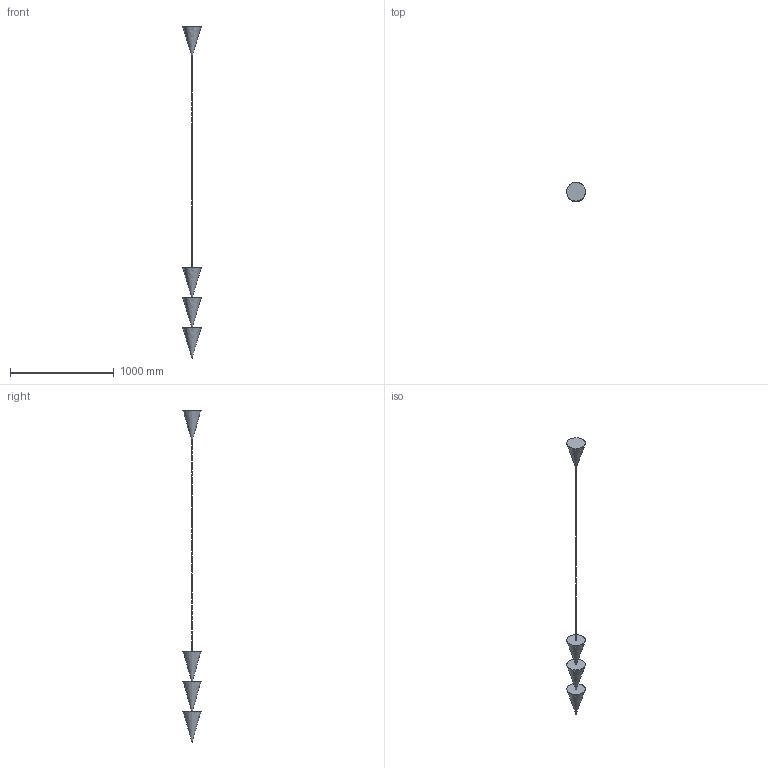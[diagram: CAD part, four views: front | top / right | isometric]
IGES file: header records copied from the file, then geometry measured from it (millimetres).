
Global section: file name: /Users/magnolia/Downloads/PEAKS/PEAKS UP/PEAKS 3 UP/PEAKS-3-up.igs; native system: Rhinoceros ( Aug  9 2023 ); preprocessor: Trout Lake IGES 012 Aug  9 2023; date: 230821.160419; units: millimetre
Bounding box: 180 x 180 x 3200 mm (x, y, z)
Surface area: 484422 mm2 (no closed solid volume)
Topology: 0 solids, 0 shells, 11 faces, 68 edges, 57 vertices
Faces by surface type: bspline 11
